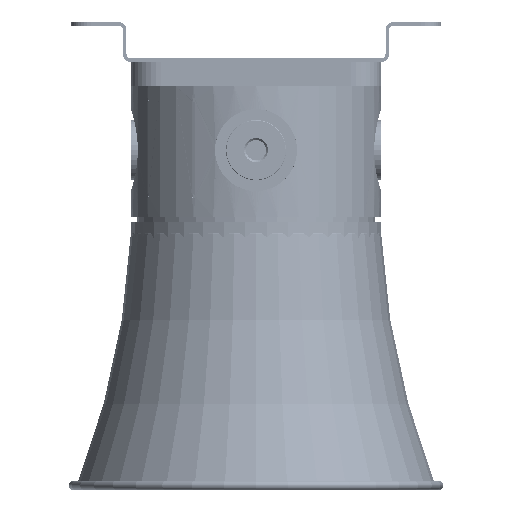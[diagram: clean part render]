
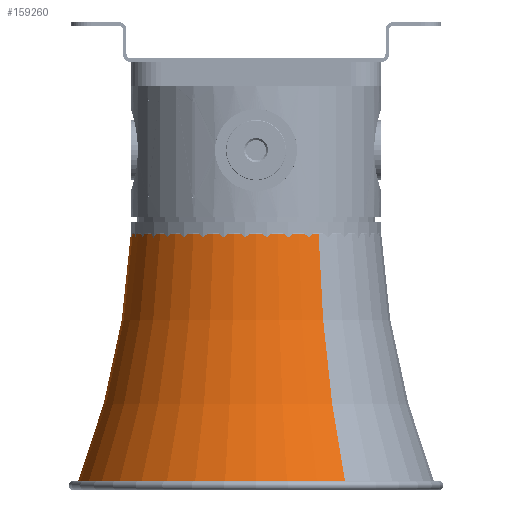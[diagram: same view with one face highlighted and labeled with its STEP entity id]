
A CAD part, front view. The second image highlights one B-rep face of the part: STEP entity #159260.
In plain terms, the highlighted toroidal (fillet/blend) face has major radius 462.029 mm and minor radius 400 mm.
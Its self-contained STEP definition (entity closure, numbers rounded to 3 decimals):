
#158283=CARTESIAN_POINT('',(0.,462.029,19.404));
#158284=DIRECTION('',(-1.,0.,0.));
#158285=DIRECTION('',(0.,-0.931,-0.366));
#158286=AXIS2_PLACEMENT_3D('',#158283,#158284,#158285);
#158293=CARTESIAN_POINT('',(0.,-462.029,
19.404));
#158294=DIRECTION('',(1.,0.,0.));
#158295=DIRECTION('',(0.,0.931,-0.366));
#158296=AXIS2_PLACEMENT_3D('',#158293,#158294,#158295);
#158635=CARTESIAN_POINT('',(0.,0.,-127.049));
#158636=DIRECTION('',(0.,0.,1.));
#158637=DIRECTION('',(0.,1.,0.));
#158638=AXIS2_PLACEMENT_3D('',#158635,#158636,#158637);
#158645=CARTESIAN_POINT('',(0.,0.,-0.76));
#158646=DIRECTION('',(0.,0.,1.));
#158647=DIRECTION('',(0.,1.,0.));
#158648=AXIS2_PLACEMENT_3D('',#158645,#158646,#158647);
#158656=CARTESIAN_POINT('',(0.,89.804,-127.049));
#158658=VERTEX_POINT('',#158656);
#158660=CARTESIAN_POINT('',(0.,-89.804,
-127.049));
#158662=VERTEX_POINT('',#158660);
#158739=CARTESIAN_POINT('',(0.,62.538,
-0.76));
#158740=CARTESIAN_POINT('',(0.,-62.538,
-0.76));
#158741=VERTEX_POINT('',#158739);
#158742=VERTEX_POINT('',#158740);
#159248=CARTESIAN_POINT('',(0.,0.,19.404));
#159249=DIRECTION('',(0.,0.,1.));
#159250=DIRECTION('',(0.,1.,0.));
#159251=AXIS2_PLACEMENT_3D('',#159248,#159249,#159250);
#159252=TOROIDAL_SURFACE('',#159251,462.029,400.);
#159254=ORIENTED_EDGE('',*,*,#159253,.T.);
#159255=ORIENTED_EDGE('',*,*,#158762,.F.);
#159256=ORIENTED_EDGE('',*,*,#159215,.F.);
#159257=ORIENTED_EDGE('',*,*,#158758,.T.);
#159258=EDGE_LOOP('',(#159254,#159255,#159256,#159257));
#159259=FACE_OUTER_BOUND('',#159258,.F.);
#159260=ADVANCED_FACE('',(#159259),#159252,.F.);
#158287=CIRCLE('',#158286,400.);
#158297=CIRCLE('',#158296,400.);
#158639=CIRCLE('',#158638,89.804);
#158649=CIRCLE('',#158648,62.538);
#158758=EDGE_CURVE('',#158658,#158741,#158287,.T.);
#158762=EDGE_CURVE('',#158662,#158742,#158297,.T.);
#159215=EDGE_CURVE('',#158658,#158662,#158639,.T.);
#159253=EDGE_CURVE('',#158741,#158742,#158649,.T.);
